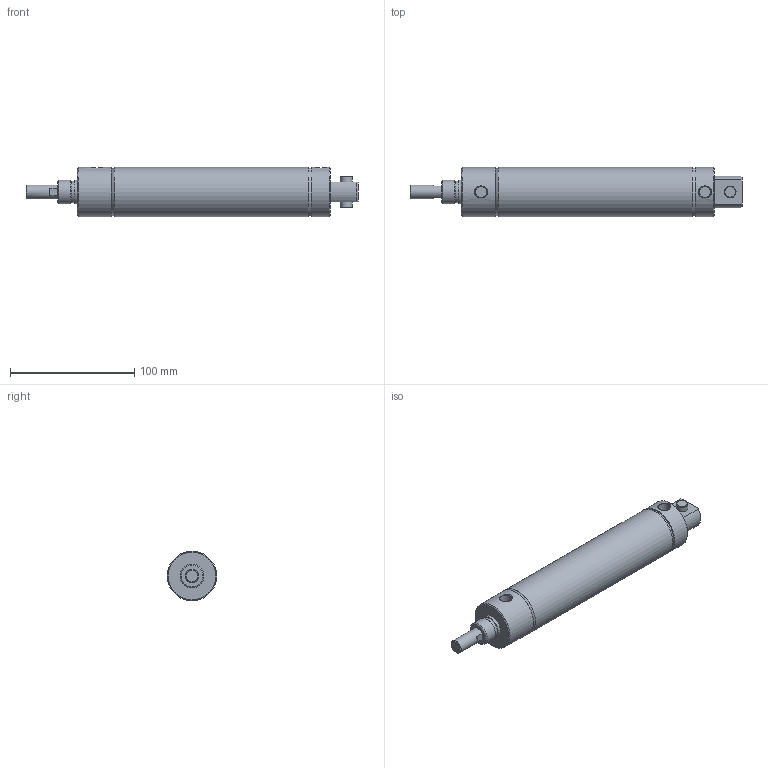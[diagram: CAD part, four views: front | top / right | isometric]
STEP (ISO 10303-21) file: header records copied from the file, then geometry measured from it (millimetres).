
FILE_DESCRIPTION( ( 'STEP AP214' ), '1' );
FILE_NAME( 'p:/temp/worker_476/temp/exporttempdir_84384_79_znpb8/format_0/1500D02-05A-03.stp', '2020-05-07T18:43:26', ( 'License CC BY-ND 4.0' ), ( 'CADENAS' ), ' ', 'PARTsolutions', ' ' );
FILE_SCHEMA( ( 'AUTOMOTIVE_DESIGN { 1 0 10303 214 1 1 1 1 }' ) );
Length unit declared in the file: inch
Products named in the file (3): 1500D02-05A-03; _1500D02-05A-0300A00A0b; _1500D02-05A-0300A00A0r
Assembly tree (2 placements, depth 2):
  1500D02-05A-03
    _1500D02-05A-0300A00A0b
    _1500D02-05A-0300A00A0r
Bounding box: 266.7 x 39.7 x 39.7 mm (x, y, z)
Volume: 132858.6 mm3; surface area: 66598.6 mm2
Topology: 2 solids, 2 shells, 55 faces, 99 edges, 63 vertices
Faces by surface type: plane 25, cylinder 15, cone 15
Full cylindrical faces by diameter (mm): 9.525 x2, 11.125 x3, 17.178 x1, 19.05 x2, 38.1 x2, 39.7 x3
Entity records: 1834 total; most frequent: CARTESIAN_POINT 348, DIRECTION 228, ORIENTED_EDGE 140, AXIS2_PLACEMENT_3D 106, EDGE_LOOP 96, EDGE_CURVE 70, FACE_OUTER_BOUND 68, VERTEX_POINT 60
